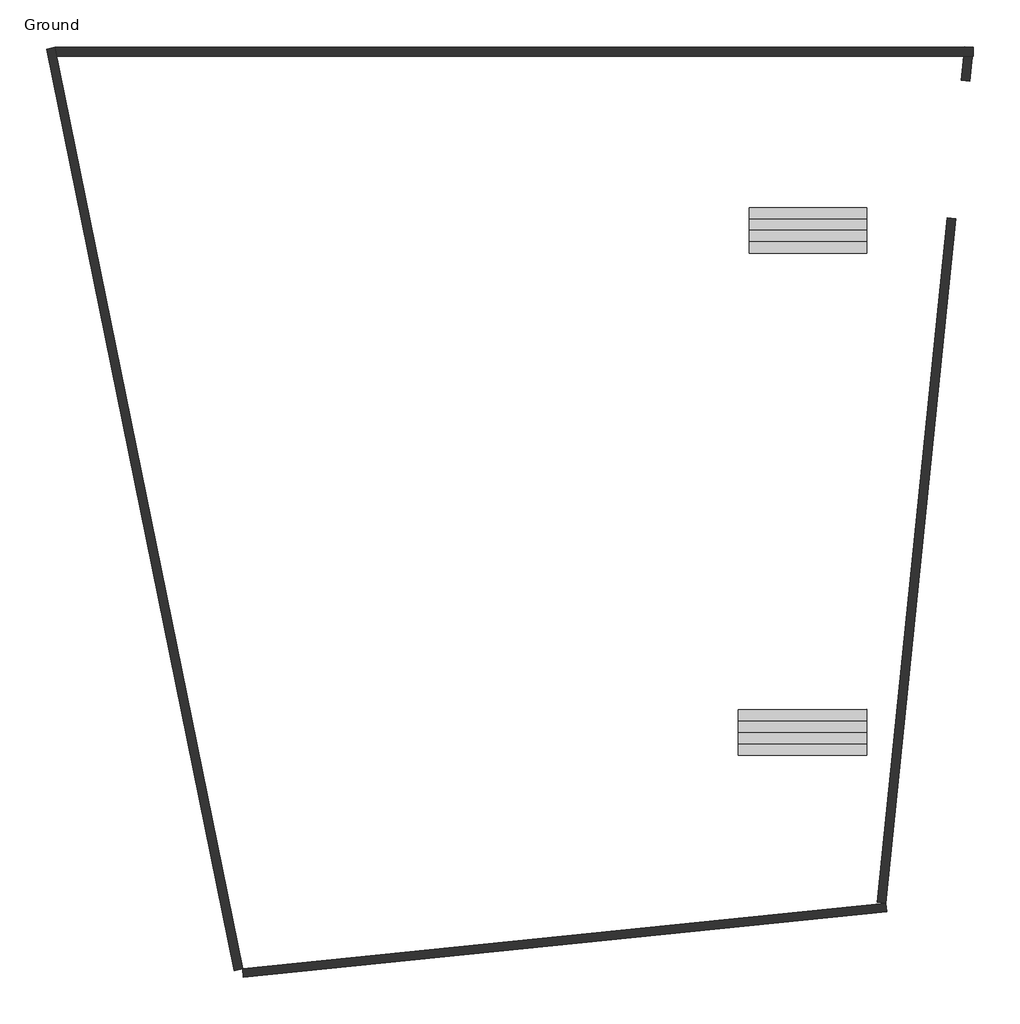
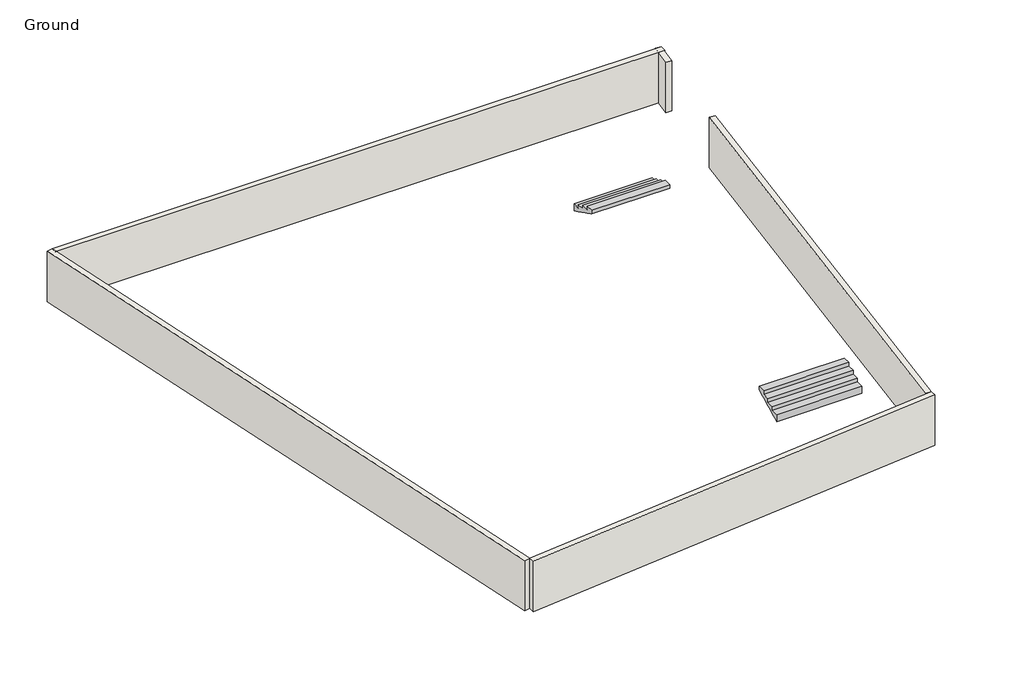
# One storey: 5 walls, 2 stairs.
"""IFC4 building model written with IfcOpenShell, lengths in millimetres."""

from ifc_helpers import new_model, si_unit, origin, origin_with_axes, place, context, project, spatial, polyline, outline, extrude, transform, mapped, element, save
from components import stair_9156229e, sf_structure_107_sf_structure_107_e833613f

model = new_model("IFC4")

# Units and contexts
model_context = context("Model", 3, world=origin())
ifc_project = project(units=[si_unit("LENGTHUNIT", "METRE", prefix="MILLI")], contexts=[model_context])

# Site, building, storey
site = spatial("IfcSite", under=ifc_project)
building = spatial("IfcBuilding", under=site)
storey = spatial("IfcBuildingStorey", under=building, Name="Ground", Elevation=0.0)

# Stairs
placement = place(None, origin())
stair_shape = stair_9156229e(model_context)
element("IfcStair", 1, ObjectType="SF STRUCTURE - 107 701 : SF STRUCTURE - 107 701", at=placement, inside=storey, context=model_context, shape_type="MappedRepresentation", body=[
    mapped(stair_shape, transform((0.0, 0.0, 0.0), x_axis=(1.0, 0.0, 0.0), y_axis=(0.0, 1.0, 0.0), z_axis=(0.0, 0.0, 1.0))),
])
sf_structure_107_sf_structure_107_shape = sf_structure_107_sf_structure_107_e833613f(model_context)
element("IfcStair", 2, ObjectType="SF STRUCTURE - 107 : SF STRUCTURE - 107", at=placement, inside=storey, context=model_context, shape_type="MappedRepresentation", body=[
    mapped(sf_structure_107_sf_structure_107_shape, transform((0.0, 0.0, 0.0), x_axis=(1.0, 0.0, 0.0), y_axis=(0.0, 1.0, 0.0), z_axis=(0.0, 0.0, 1.0))),
])

# Walls
element("IfcWall", 3, ObjectType="Brick_Flyash_9\"thk_Core. 10\"", at=placement, inside=storey, context=model_context, shape_type="SweptSolid", body=[
    extrude(outline(polyline([(0.0, 0.0), (17094.04125, 1747.3709251), (17117.2878452, 1519.9559832), (23.2465952, -227.4149419), (0.0, 0.0)])), origin_with_axes(), (0.0, 0.0, 1.0), 2133.6),
])
element("IfcWall", 4, ObjectType="Brick_Flyash_9\"thk_Core. 10\"", at=placement, inside=storey, context=model_context, shape_type="SweptSolid", body=[
    extrude(outline(polyline([(-4986.81375, 24491.0540725), (0.0, 0.0), (-224.0035433, -45.6111014), (-5210.8172933, 24445.4429711), (-4986.81375, 24491.0540725)])), origin_with_axes(), (0.0, 0.0, 1.0), 2133.6),
])
element("IfcWall", 5, ObjectType="Brick_Flyash_9\"thk_Core. 10\"", at=placement, inside=storey, context=model_context, shape_type="SweptSolid", body=[
    extrude(outline(polyline([(-4986.81375, 24491.0540725), (19421.7703179, 24491.0540725), (19421.7703179, 24262.4540725), (-4986.81375, 24262.4540725), (-4986.81375, 24491.0540725)])), origin_with_axes(), (0.0, 0.0, 1.0), 2133.6),
])
element("IfcWall", 6, ObjectType="Brick_Flyash_9\"thk_Core. 10\"", at=placement, inside=storey, context=model_context, shape_type="SweptSolid", body=[
    extrude(outline(polyline([(18952.444603, 19940.5726012), (17094.04125, 1747.3709251), (16866.6246332, 1770.60113), (18725.0279862, 19963.8028061), (18952.444603, 19940.5726012)])), origin_with_axes(), (0.0, 0.0, 1.0), 2133.6),
])
element("IfcWall", 7, ObjectType="Brick_Flyash_9\"thk_Core. 10\"", at=placement, inside=storey, context=model_context, shape_type="SweptSolid", body=[
    extrude(outline(polyline([(19421.7703179, 24491.0540725), (19325.1320091, 23589.0371317), (19097.8327667, 23613.3890184), (19194.4710754, 24515.4059592), (19421.7703179, 24491.0540725)])), origin_with_axes(), (0.0, 0.0, 1.0), 2133.6),
])

save(model, "model.ifc")
